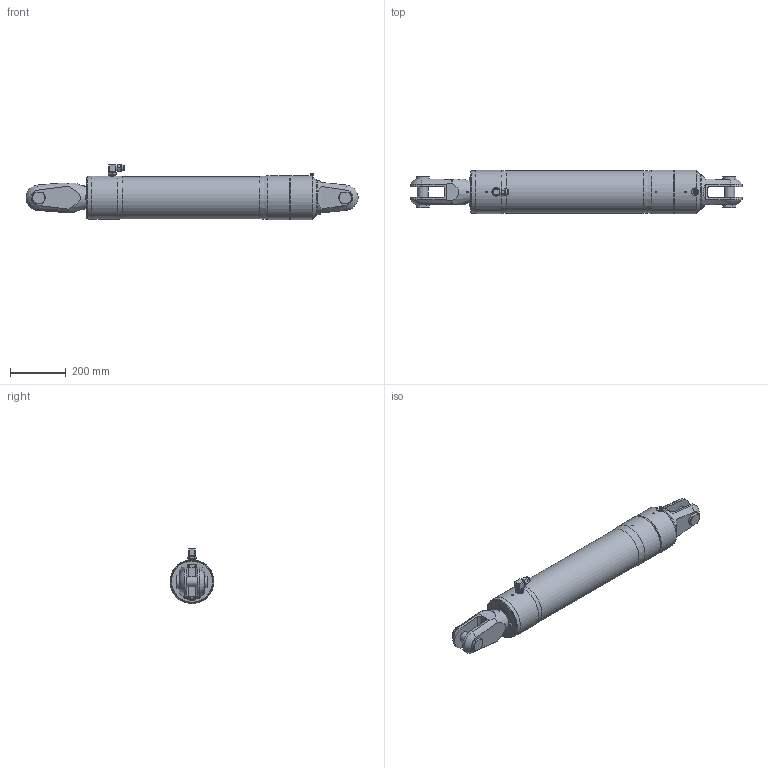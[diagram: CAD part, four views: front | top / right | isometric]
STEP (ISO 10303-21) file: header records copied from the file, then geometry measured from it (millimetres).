
FILE_DESCRIPTION(/* description */ (''),/* implementation_level */ '2;1');
FILE_NAME(/* name */ 'Q:\AA BRAND HYDRAULICS\HYDRAULICS FAMILY DIRECTORY\HYDRAULICS\CYLINDERS\RAMS\STAINLESS - STANDARD SINGLE ACTING (-0006 To -0260)\RSS-0115-S0475-NP-71\RSS-0115-S0475-NP-71 (Closed).stp',/* time_stamp */ '2018-02-07T17:14:18+00:00',/* author */ ('Lorena'),/* organization */ (''),/* preprocessor_version */ 'ST-DEVELOPER v17',/* originating_system */ 'Autodesk Inventor 2018',/* authorisation */ '');
FILE_SCHEMA (('AUTOMOTIVE_DESIGN { 1 0 10303 214 3 1 1 }'));
Length unit declared in the file: millimetre
Products named in the file (1): RSS-0115-S0475-NP-71 (Closed)
Bounding box: 1193.84 x 157.4 x 198.3 mm (x, y, z)
Volume: 17522121.8 mm3; surface area: 604633 mm2
Topology: 2 solids, 6 shells, 1783 faces, 4807 edges, 3183 vertices
Faces by surface type: plane 1012, bspline 574, cone 110, cylinder 79, torus 4, sphere 4
Full cylindrical faces by diameter (mm): 4 x1, 4.134 x1, 4.2 x1, 5 x2, 7 x1, 9 x1, 9.9 x1, 10 x4, 11 x2, 11.1 x1, 18.9 x1, 19 x2, 19.11 x1, 19.9 x1, 20 x1, 20.9 x2, 22 x2, 24 x2, 27.8 x3, 30 x1, 38.1 x2, 40 x1, 47 x1, 47.625 x2, 150.8 x1, 152.4 x1, 155.4 x1, 156.4 x1, 157.4 x2
Entity records: 63255 total; most frequent: CARTESIAN_POINT 20905, ORIENTED_EDGE 9600, DIRECTION 6310, EDGE_CURVE 4800, VERTEX_POINT 3185, LINE 2972, VECTOR 2972, EDGE_LOOP 1951
